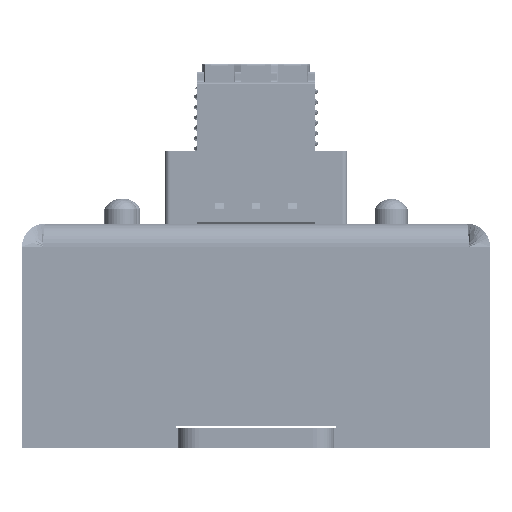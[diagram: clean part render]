
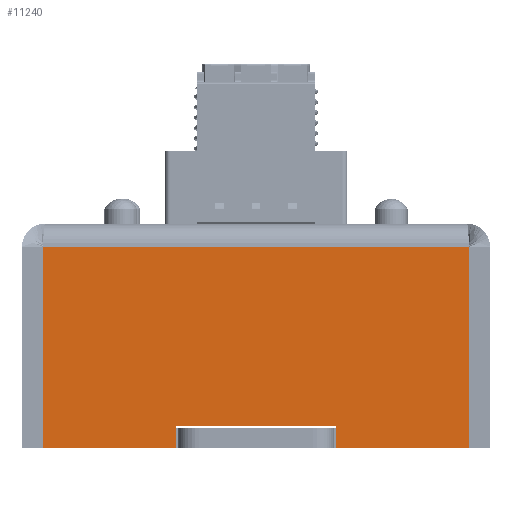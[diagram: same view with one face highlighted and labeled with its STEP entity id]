
A CAD part, front view. The second image highlights one B-rep face of the part: STEP entity #11240.
In plain terms, the highlighted planar face has unit normal (0, -1, 0).
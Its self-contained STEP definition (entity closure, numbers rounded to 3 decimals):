
#1381 = EDGE_LOOP ( 'NONE', ( #41908, #47091, #2816, #6123, #29973, #48502, #46230, #59884 ) ) ;
#2816 = ORIENTED_EDGE ( 'NONE', *, *, #16038, .T. ) ;
#4085 = CARTESIAN_POINT ( 'NONE',  ( 0., -30., -30. ) ) ;
#6123 = ORIENTED_EDGE ( 'NONE', *, *, #46512, .T. ) ;
#7289 = VECTOR ( 'NONE', #59905, 1000. ) ;
#8726 = VERTEX_POINT ( 'NONE', #45321 ) ;
#9166 = EDGE_CURVE ( 'NONE', #44236, #15935, #29017, .T. ) ;
#9283 = EDGE_CURVE ( 'NONE', #26761, #46531, #36583, .T. ) ;
#9760 = EDGE_CURVE ( 'NONE', #8726, #26761, #21657, .T. ) ;
#9794 = CARTESIAN_POINT ( 'NONE',  ( -22.5, -30., -30. ) ) ;
#11240 = ADVANCED_FACE ( 'NONE', ( #38520 ), #37897, .T. ) ;
#12481 = CARTESIAN_POINT ( 'NONE',  ( -20.49, -30., -30. ) ) ;
#12893 = CARTESIAN_POINT ( 'NONE',  ( -22.5, -30., -10.6 ) ) ;
#13629 = LINE ( 'NONE', #32877, #57427 ) ;
#15935 = VERTEX_POINT ( 'NONE', #39928 ) ;
#16038 = EDGE_CURVE ( 'NONE', #46531, #20431, #21621, .T. ) ;
#17511 = DIRECTION ( 'NONE',  ( 0., 0., -1. ) ) ;
#20431 = VERTEX_POINT ( 'NONE', #24018 ) ;
#21621 = LINE ( 'NONE', #12481, #23045 ) ;
#21657 = LINE ( 'NONE', #54784, #29470 ) ;
#22386 = VECTOR ( 'NONE', #43242, 1000. ) ;
#22514 = CARTESIAN_POINT ( 'NONE',  ( -7.7, -30., -30. ) ) ;
#22995 = DIRECTION ( 'NONE',  ( 1., 0., 0. ) ) ;
#23045 = VECTOR ( 'NONE', #17511, 1000. ) ;
#23306 = LINE ( 'NONE', #4085, #27455 ) ;
#24018 = CARTESIAN_POINT ( 'NONE',  ( -20.49, -30., -30. ) ) ;
#26295 = VECTOR ( 'NONE', #55446, 1000. ) ;
#26761 = VERTEX_POINT ( 'NONE', #55685 ) ;
#27455 = VECTOR ( 'NONE', #22995, 1000. ) ;
#28119 = DIRECTION ( 'NONE',  ( 0., 0., -1. ) ) ;
#29017 = LINE ( 'NONE', #32302, #22386 ) ;
#29470 = VECTOR ( 'NONE', #40921, 1000. ) ;
#29973 = ORIENTED_EDGE ( 'NONE', *, *, #49783, .F. ) ;
#31375 = AXIS2_PLACEMENT_3D ( 'NONE', #9794, #43586, #28119 ) ;
#31868 = LINE ( 'NONE', #48995, #34427 ) ;
#32302 = CARTESIAN_POINT ( 'NONE',  ( 7.7, -30., -27.8 ) ) ;
#32597 = VERTEX_POINT ( 'NONE', #22514 ) ;
#32877 = CARTESIAN_POINT ( 'NONE',  ( 0., -30., -30. ) ) ;
#34427 = VECTOR ( 'NONE', #51089, 1000. ) ;
#36583 = LINE ( 'NONE', #12893, #7289 ) ;
#37136 = LINE ( 'NONE', #41264, #26295 ) ;
#37897 = PLANE ( 'NONE',  #31375 ) ;
#38077 = CARTESIAN_POINT ( 'NONE',  ( 7.7, -30., -30. ) ) ;
#38520 = FACE_OUTER_BOUND ( 'NONE', #1381, .T. ) ;
#39928 = CARTESIAN_POINT ( 'NONE',  ( -7.7, -30., -27.8 ) ) ;
#40921 = DIRECTION ( 'NONE',  ( 0., 0., 1. ) ) ;
#41264 = CARTESIAN_POINT ( 'NONE',  ( 7.7, -30., -30.2 ) ) ;
#41908 = ORIENTED_EDGE ( 'NONE', *, *, #9760, .T. ) ;
#43242 = DIRECTION ( 'NONE',  ( -1., 0., 0. ) ) ;
#43586 = DIRECTION ( 'NONE',  ( 0., -1., 0. ) ) ;
#43601 = VERTEX_POINT ( 'NONE', #38077 ) ;
#44236 = VERTEX_POINT ( 'NONE', #55825 ) ;
#45321 = CARTESIAN_POINT ( 'NONE',  ( 20.49, -30., -30. ) ) ;
#45852 = EDGE_CURVE ( 'NONE', #43601, #44236, #37136, .T. ) ;
#46230 = ORIENTED_EDGE ( 'NONE', *, *, #45852, .F. ) ;
#46512 = EDGE_CURVE ( 'NONE', #20431, #32597, #13629, .T. ) ;
#46531 = VERTEX_POINT ( 'NONE', #52431 ) ;
#46773 = DIRECTION ( 'NONE',  ( 1., 0., 0. ) ) ;
#47091 = ORIENTED_EDGE ( 'NONE', *, *, #9283, .T. ) ;
#48502 = ORIENTED_EDGE ( 'NONE', *, *, #9166, .F. ) ;
#48995 = CARTESIAN_POINT ( 'NONE',  ( -7.7, -30., -27.8 ) ) ;
#49783 = EDGE_CURVE ( 'NONE', #15935, #32597, #31868, .T. ) ;
#49900 = EDGE_CURVE ( 'NONE', #43601, #8726, #23306, .T. ) ;
#51089 = DIRECTION ( 'NONE',  ( 0., 0., -1. ) ) ;
#52431 = CARTESIAN_POINT ( 'NONE',  ( -20.49, -30., -10.6 ) ) ;
#54784 = CARTESIAN_POINT ( 'NONE',  ( 20.49, -30., -30. ) ) ;
#55446 = DIRECTION ( 'NONE',  ( 0., 0., 1. ) ) ;
#55685 = CARTESIAN_POINT ( 'NONE',  ( 20.49, -30., -10.6 ) ) ;
#55825 = CARTESIAN_POINT ( 'NONE',  ( 7.7, -30., -27.8 ) ) ;
#57427 = VECTOR ( 'NONE', #46773, 1000. ) ;
#59884 = ORIENTED_EDGE ( 'NONE', *, *, #49900, .T. ) ;
#59905 = DIRECTION ( 'NONE',  ( -1., 0., 0. ) ) ;
